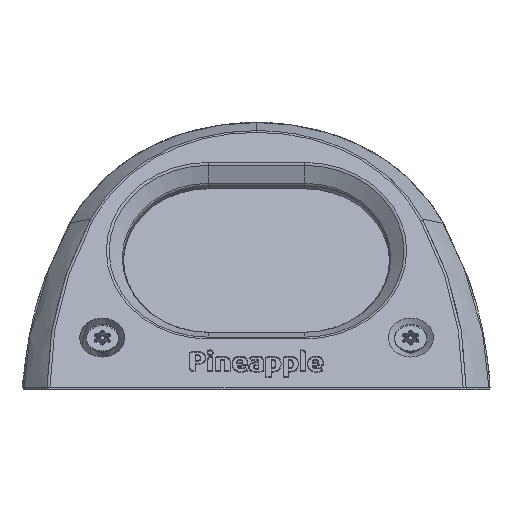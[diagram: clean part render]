
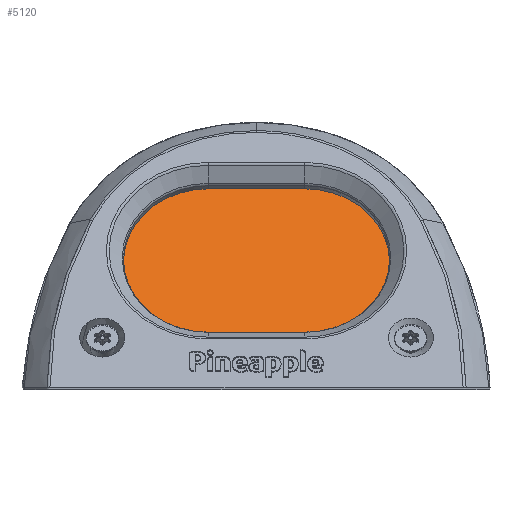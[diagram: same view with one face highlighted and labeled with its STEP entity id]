
A CAD part, front view. The second image highlights one B-rep face of the part: STEP entity #5120.
In plain terms, the highlighted planar face has unit normal (0, -0.866, 0.5).
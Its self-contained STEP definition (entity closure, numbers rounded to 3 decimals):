
#596=PLANE('',#5396);
#855=FACE_OUTER_BOUND('',#1194,.T.);
#1194=EDGE_LOOP('',(#4394,#4395,#4396,#4397));
#1345=LINE('',#9307,#1621);
#1358=LINE('',#19086,#1634);
#1621=VECTOR('',#5833,1000.);
#1634=VECTOR('',#5920,1000.);
#1869=CIRCLE('',#5303,22.);
#1875=CIRCLE('',#5314,22.);
#2139=VERTEX_POINT('',#9294);
#2142=VERTEX_POINT('',#9299);
#2144=VERTEX_POINT('',#9305);
#2146=VERTEX_POINT('',#9318);
#2682=EDGE_CURVE('',#2139,#2142,#1869,.T.);
#2685=EDGE_CURVE('',#2144,#2142,#1345,.T.);
#2692=EDGE_CURVE('',#2146,#2144,#1875,.T.);
#2837=EDGE_CURVE('',#2146,#2139,#1358,.T.);
#4394=ORIENTED_EDGE('',*,*,#2837,.T.);
#4395=ORIENTED_EDGE('',*,*,#2682,.T.);
#4396=ORIENTED_EDGE('',*,*,#2685,.F.);
#4397=ORIENTED_EDGE('',*,*,#2692,.F.);
#5120=ADVANCED_FACE('',(#855),#596,.T.);
#5303=AXIS2_PLACEMENT_3D('',#9301,#5827,#5828);
#5314=AXIS2_PLACEMENT_3D('',#9320,#5853,#5854);
#5396=AXIS2_PLACEMENT_3D('',#22512,#6161,#6162);
#5827=DIRECTION('center_axis',(0.,-0.866,0.5));
#5828=DIRECTION('ref_axis',(0.,0.5,0.866));
#5833=DIRECTION('',(-1.,0.,0.));
#5853=DIRECTION('center_axis',(0.,0.866,
-0.5));
#5854=DIRECTION('ref_axis',(0.,-0.5,-0.866));
#5920=DIRECTION('',(-1.,0.,0.));
#6161=DIRECTION('center_axis',(0.,-0.866,
0.5));
#6162=DIRECTION('ref_axis',(-1.,0.,0.));
#9294=CARTESIAN_POINT('',(-12.5,-59.767,52.059));
#9299=CARTESIAN_POINT('',(-12.5,-81.767,13.954));
#9301=CARTESIAN_POINT('Origin',(-12.5,-70.767,33.007));
#9305=CARTESIAN_POINT('',(12.5,-81.767,13.954));
#9307=CARTESIAN_POINT('',(0.,-81.767,13.954));
#9318=CARTESIAN_POINT('',(12.5,-59.767,52.059));
#9320=CARTESIAN_POINT('Origin',(12.5,-70.767,33.007));
#19086=CARTESIAN_POINT('',(0.,-59.767,52.059));
#22512=CARTESIAN_POINT('Origin',(12.5,-59.767,52.059));
